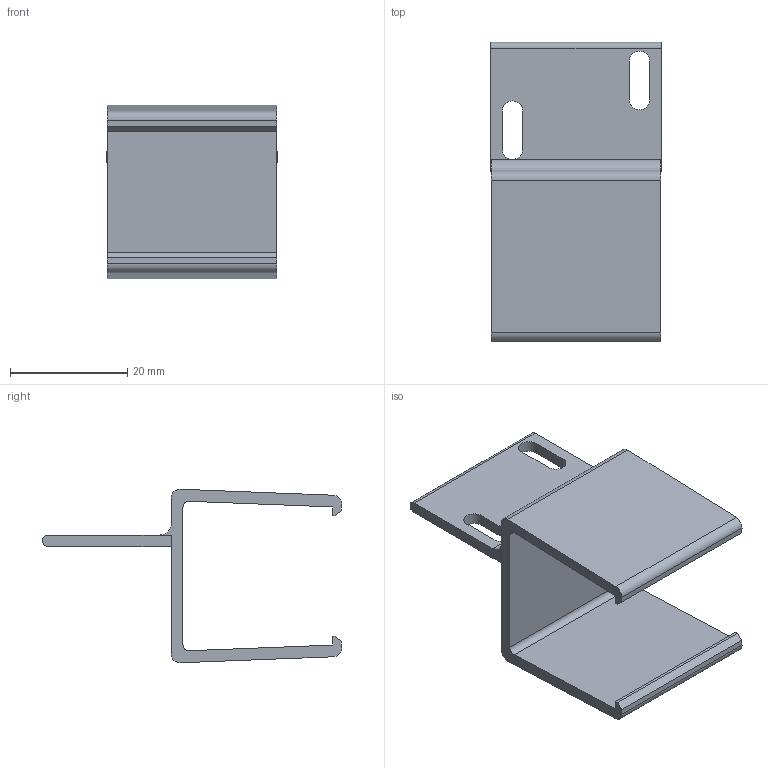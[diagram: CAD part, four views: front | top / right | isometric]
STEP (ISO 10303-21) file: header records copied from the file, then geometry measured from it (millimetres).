
FILE_DESCRIPTION(/* description */ (''),/* implementation_level */ '2;1');
FILE_NAME(/* name */ 'C:\Users\Nick\Documents\Inventor\Capstone\Clip_Left.stp',/* time_stamp */ '2017-10-15T20:36:08-07:00',/* author */ ('Nick'),/* organization */ (''),/* preprocessor_version */ 'ST-DEVELOPER v16.5',/* originating_system */ 'Autodesk Inventor 2017',/* authorisation */ '');
FILE_SCHEMA (('AUTOMOTIVE_DESIGN { 1 0 10303 214 3 1 1 }'));
Length unit declared in the file: millimetre
Products named in the file (1): Clip_Left
Bounding box: 29.2 x 51.1 x 29.64 mm (x, y, z)
Volume: 6093.8 mm3; surface area: 6650.9 mm2
Topology: 1 solids, 1 shells, 39 faces, 111 edges, 73 vertices
Faces by surface type: plane 27, cylinder 12
Entity records: 1304 total; most frequent: CARTESIAN_POINT 224, ORIENTED_EDGE 222, DIRECTION 216, EDGE_CURVE 111, LINE 86, VECTOR 86, VERTEX_POINT 73, AXIS2_PLACEMENT_3D 65
